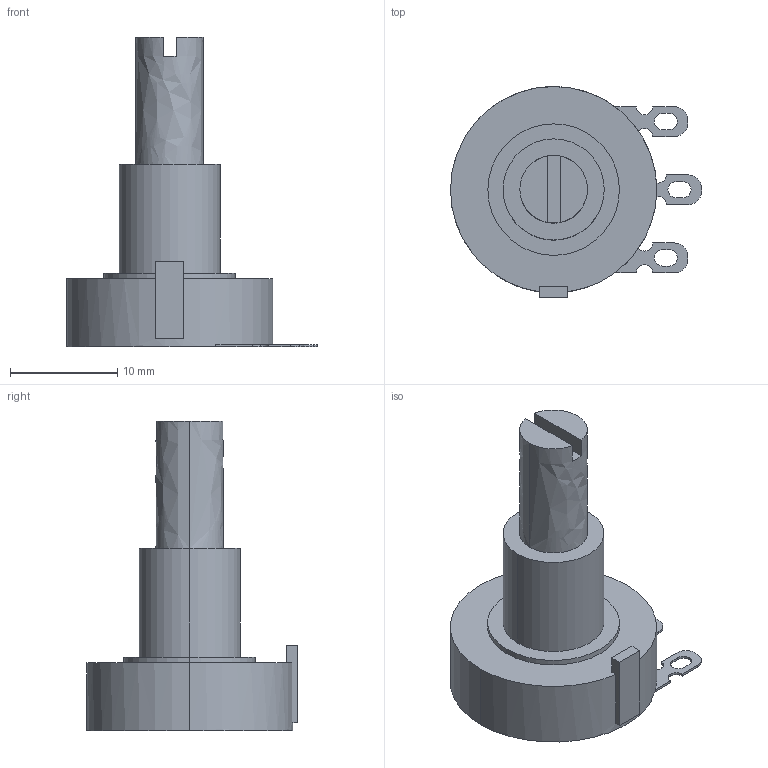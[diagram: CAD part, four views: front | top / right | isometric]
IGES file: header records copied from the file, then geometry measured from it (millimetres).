
Global section: file name: C:\Documents and Settings\Administrator\My Documents\PersonalProject\potentiometer.igs; native system: AutoDesk Inventor R2.0 ; preprocessor: AutoDesk Inventor Iges Exporter R2.0; author: No Author specified; organization: No Organization specified; date: 20020115.190536; units: inch
Bounding box: 23.41 x 19.67 x 28.91 mm (x, y, z)
Surface area: 2123 mm2 (no closed solid volume)
Topology: 0 solids, 0 shells, 106 faces, 552 edges, 552 vertices
Faces by surface type: bspline 54, revolution 52
